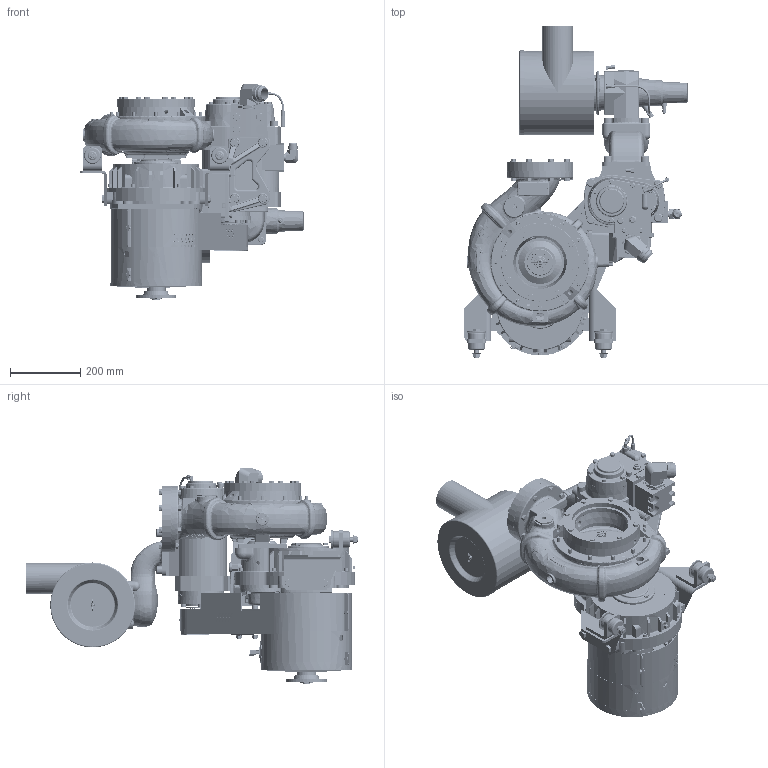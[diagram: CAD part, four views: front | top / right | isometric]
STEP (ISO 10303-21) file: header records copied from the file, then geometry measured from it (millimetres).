
FILE_DESCRIPTION((''),'2;1');
FILE_NAME('DKD0423','2022-12-01T',('SSullivan'),(''),'PRO/ENGINEER BY PARAMETRIC TECHNOLOGY CORPORATION, 2013150','PRO/ENGINEER BY PARAMETRIC TECHNOLOGY CORPORATION, 2013150','');
FILE_SCHEMA(('CONFIG_CONTROL_DESIGN'));
Length unit declared in the file: inch
Products named in the file (1): DKD0423
Bounding box: 637.2 x 948.55 x 617.14 mm (x, y, z)
Surface area: 4420052.7 mm2 (no closed solid volume)
Topology: 0 solids, 485 shells, 5336 faces, 19444 edges, 14142 vertices
Faces by surface type: plane 1631, cylinder 1427, bspline 1120, cone 834, torus 257, sphere 59, extrusion 8
Entity records: 276429 total; most frequent: CARTESIAN_POINT 128391, ORIENTED_EDGE 29870, DIRECTION 26347, EDGE_CURVE 19372, VERTEX_POINT 14141, AXIS2_PLACEMENT_3D 10022, B_SPLINE_CURVE_WITH_KNOTS 7270, VECTOR 6303
